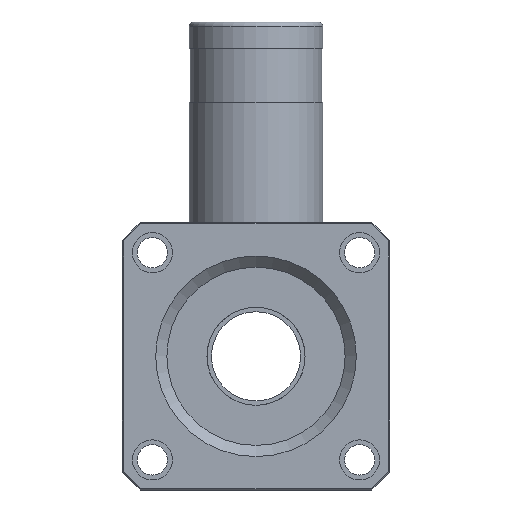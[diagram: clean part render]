
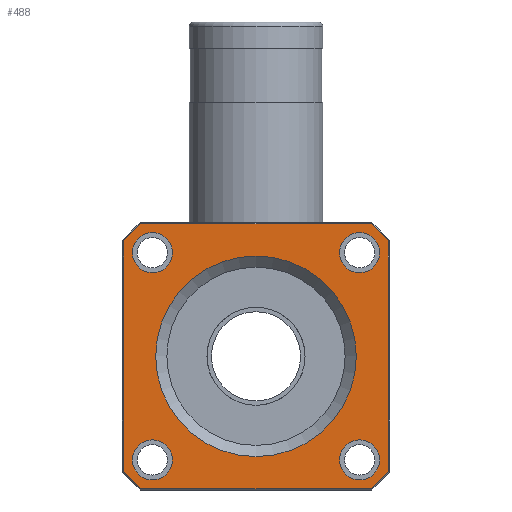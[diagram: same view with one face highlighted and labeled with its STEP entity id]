
A CAD part, front view. The second image highlights one B-rep face of the part: STEP entity #488.
In plain terms, the highlighted planar face has unit normal (0, -1, 0) as drawn and (0, 0, 1) by its records, which use the part's own axes.
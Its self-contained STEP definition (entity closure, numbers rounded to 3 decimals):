
#488=ADVANCED_FACE('',(#835,#836,#837,#838,#839,#840),#841,.T.);
#835=FACE_OUTER_BOUND('',#1222,.T.);
#836=FACE_BOUND('',#1223,.T.);
#837=FACE_BOUND('',#1224,.T.);
#838=FACE_BOUND('',#1225,.T.);
#839=FACE_BOUND('',#1226,.T.);
#840=FACE_BOUND('',#1227,.T.);
#841=PLANE('',#1228);
#1222=EDGE_LOOP('',(#1932,#1933,#1934,#1935,#1936,#1937,#1938,#1939));
#1223=EDGE_LOOP('',(#1940));
#1224=EDGE_LOOP('',(#1941));
#1225=EDGE_LOOP('',(#1942));
#1226=EDGE_LOOP('',(#1943));
#1227=EDGE_LOOP('',(#1944));
#1228=AXIS2_PLACEMENT_3D('',#1945,#1946,#1947);
#1932=ORIENTED_EDGE('',*,*,#2214,.T.);
#1933=ORIENTED_EDGE('',*,*,#2210,.T.);
#1934=ORIENTED_EDGE('',*,*,#2204,.T.);
#1935=ORIENTED_EDGE('',*,*,#2217,.T.);
#1936=ORIENTED_EDGE('',*,*,#2225,.T.);
#1937=ORIENTED_EDGE('',*,*,#2233,.T.);
#1938=ORIENTED_EDGE('',*,*,#2230,.T.);
#1939=ORIENTED_EDGE('',*,*,#2222,.T.);
#1940=ORIENTED_EDGE('',*,*,#2357,.T.);
#1941=ORIENTED_EDGE('',*,*,#2328,.T.);
#1942=ORIENTED_EDGE('',*,*,#2326,.T.);
#1943=ORIENTED_EDGE('',*,*,#2330,.T.);
#1944=ORIENTED_EDGE('',*,*,#2152,.T.);
#1945=CARTESIAN_POINT('',(0.0,0.0,82.0));
#1946=DIRECTION('',(0.0,0.0,1.0));
#1947=DIRECTION('',(1.0,0.0,0.0));
#2152=EDGE_CURVE('',#2456,#2456,#2457,.T.);
#2204=EDGE_CURVE('',#2551,#2549,#2552,.T.);
#2210=EDGE_CURVE('',#2557,#2551,#2561,.T.);
#2214=EDGE_CURVE('',#2563,#2557,#2567,.T.);
#2217=EDGE_CURVE('',#2549,#2570,#2572,.T.);
#2222=EDGE_CURVE('',#2575,#2563,#2579,.T.);
#2225=EDGE_CURVE('',#2570,#2582,#2584,.T.);
#2230=EDGE_CURVE('',#2587,#2575,#2591,.T.);
#2233=EDGE_CURVE('',#2582,#2587,#2594,.T.);
#2326=EDGE_CURVE('',#2714,#2714,#2715,.T.);
#2328=EDGE_CURVE('',#2717,#2717,#2718,.T.);
#2330=EDGE_CURVE('',#2720,#2720,#2721,.T.);
#2357=EDGE_CURVE('',#2751,#2751,#2752,.T.);
#2456=VERTEX_POINT('',#3177);
#2457=CIRCLE('',#3178,4.5);
#2549=VERTEX_POINT('',#3296);
#2551=VERTEX_POINT('',#3299);
#2552=LINE('',#3300,#3301);
#2557=VERTEX_POINT('',#3308);
#2561=LINE('',#3314,#3315);
#2563=VERTEX_POINT('',#3317);
#2567=LINE('',#3323,#3324);
#2570=VERTEX_POINT('',#3327);
#2572=LINE('',#3330,#3331);
#2575=VERTEX_POINT('',#3335);
#2579=LINE('',#3341,#3342);
#2582=VERTEX_POINT('',#3345);
#2584=LINE('',#3348,#3349);
#2587=VERTEX_POINT('',#3353);
#2591=LINE('',#3359,#3360);
#2594=LINE('',#3364,#3365);
#2714=VERTEX_POINT('',#3541);
#2715=CIRCLE('',#3542,4.5);
#2717=VERTEX_POINT('',#3544);
#2718=CIRCLE('',#3545,4.5);
#2720=VERTEX_POINT('',#3547);
#2721=CIRCLE('',#3548,4.5);
#2751=VERTEX_POINT('',#3588);
#2752=CIRCLE('',#3589,22.5);
#3177=CARTESIAN_POINT('',(27.75,-23.25,82.0));
#3178=AXIS2_PLACEMENT_3D('',#3914,#3915,#3916);
#3296=CARTESIAN_POINT('',(25.876,-29.7,82.0));
#3299=CARTESIAN_POINT('',(-25.876,-29.7,82.0));
#3300=CARTESIAN_POINT('',(26.0,-29.7,82.0));
#3301=VECTOR('',#3992,1.0);
#3308=CARTESIAN_POINT('',(-29.7,-25.876,82.0));
#3314=CARTESIAN_POINT('',(-25.788,-29.788,82.0));
#3315=VECTOR('',#3997,1.0);
#3317=CARTESIAN_POINT('',(-29.7,25.876,82.0));
#3323=CARTESIAN_POINT('',(-29.7,-26.0,82.0));
#3324=VECTOR('',#4000,1.0);
#3327=CARTESIAN_POINT('',(29.7,-25.876,82.0));
#3330=CARTESIAN_POINT('',(29.788,-25.788,82.0));
#3331=VECTOR('',#4002,1.0);
#3335=CARTESIAN_POINT('',(-25.876,29.7,82.0));
#3341=CARTESIAN_POINT('',(-29.788,25.788,82.0));
#3342=VECTOR('',#4006,1.0);
#3345=CARTESIAN_POINT('',(29.7,25.876,82.0));
#3348=CARTESIAN_POINT('',(29.7,26.0,82.0));
#3349=VECTOR('',#4008,1.0);
#3353=CARTESIAN_POINT('',(25.876,29.7,82.0));
#3359=CARTESIAN_POINT('',(-26.0,29.7,82.0));
#3360=VECTOR('',#4012,1.0);
#3364=CARTESIAN_POINT('',(25.788,29.788,82.0));
#3365=VECTOR('',#4014,1.0);
#3541=CARTESIAN_POINT('',(-18.75,23.25,82.0));
#3542=AXIS2_PLACEMENT_3D('',#4080,#4081,#4082);
#3544=CARTESIAN_POINT('',(-18.75,-23.25,82.0));
#3545=AXIS2_PLACEMENT_3D('',#4083,#4084,#4085);
#3547=CARTESIAN_POINT('',(27.75,23.25,82.0));
#3548=AXIS2_PLACEMENT_3D('',#4086,#4087,#4088);
#3588=CARTESIAN_POINT('',(22.5,0.,82.0));
#3589=AXIS2_PLACEMENT_3D('',#4108,#4109,#4110);
#3914=CARTESIAN_POINT('',(23.25,-23.25,82.0));
#3915=DIRECTION('',(0.0,0.0,-1.0));
#3916=DIRECTION('',(1.0,0.0,0.0));
#3992=DIRECTION('',(1.0,0.0,0.0));
#3997=DIRECTION('',(0.707,-0.707,0.0));
#4000=DIRECTION('',(0.,-1.0,0.0));
#4002=DIRECTION('',(0.707,0.707,0.0));
#4006=DIRECTION('',(-0.707,-0.707,0.0));
#4008=DIRECTION('',(0.,1.0,0.0));
#4012=DIRECTION('',(-1.0,0.,0.0));
#4014=DIRECTION('',(-0.707,0.707,0.0));
#4080=CARTESIAN_POINT('',(-23.25,23.25,82.0));
#4081=DIRECTION('',(0.0,0.0,-1.0));
#4082=DIRECTION('',(1.0,0.0,0.0));
#4083=CARTESIAN_POINT('',(-23.25,-23.25,82.0));
#4084=DIRECTION('',(0.0,0.0,-1.0));
#4085=DIRECTION('',(1.0,0.0,0.0));
#4086=CARTESIAN_POINT('',(23.25,23.25,82.0));
#4087=DIRECTION('',(0.0,0.0,-1.0));
#4088=DIRECTION('',(1.0,0.0,0.0));
#4108=CARTESIAN_POINT('',(0.0,0.0,82.0));
#4109=DIRECTION('',(0.0,0.0,-1.0));
#4110=DIRECTION('',(1.0,0.0,0.0));
